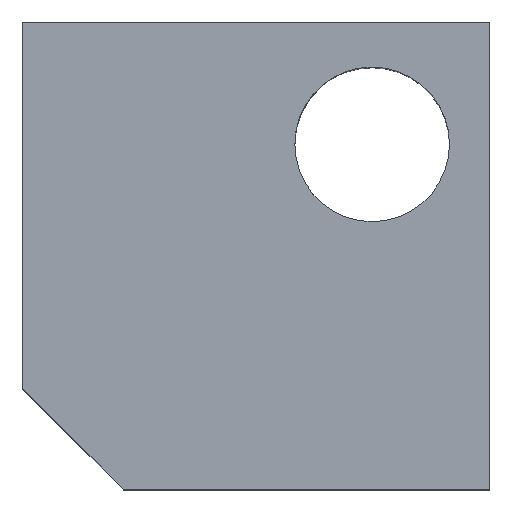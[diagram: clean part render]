
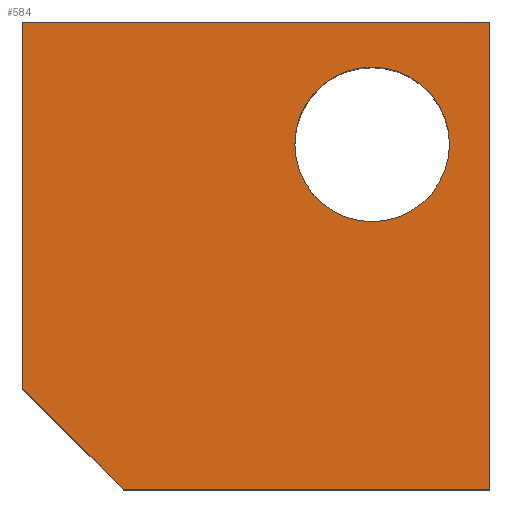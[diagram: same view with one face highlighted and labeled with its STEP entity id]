
A CAD part, top view. The second image highlights one B-rep face of the part: STEP entity #584.
In plain terms, the highlighted planar face has unit normal (0, 0, 1).
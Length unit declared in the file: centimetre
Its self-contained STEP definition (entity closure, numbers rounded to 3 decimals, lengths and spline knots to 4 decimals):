
#2 = LINE ( 'NONE', #190, #442 ) ;
#14 = VECTOR ( 'NONE', #209, 100. ) ;
#16 = CARTESIAN_POINT ( 'NONE',  ( 583.1189, 738.1582, 1000. ) ) ;
#17 = CARTESIAN_POINT ( 'NONE',  ( 1000., 1000., 1000. ) ) ;
#39 = DIRECTION ( 'NONE',  ( 0., 0., 1. ) ) ;
#54 = CIRCLE ( 'NONE', #395, 165.4871 ) ;
#58 = LINE ( 'NONE', #60, #407 ) ;
#60 = CARTESIAN_POINT ( 'NONE',  ( 0., 1000., 1000. ) ) ;
#74 = CARTESIAN_POINT ( 'NONE',  ( 748.606, 738.1582, 1000. ) ) ;
#90 = CARTESIAN_POINT ( 'NONE',  ( 107.9583, 107.9583, 1000. ) ) ;
#91 = EDGE_CURVE ( 'NONE', #424, #243, #397, .T. ) ;
#93 = EDGE_LOOP ( 'NONE', ( #122, #573, #438, #522, #376 ) ) ;
#94 = CARTESIAN_POINT ( 'NONE',  ( 215.9166, 0., 1000. ) ) ;
#96 = CARTESIAN_POINT ( 'NONE',  ( 0., 0., 1000. ) ) ;
#118 = CARTESIAN_POINT ( 'NONE',  ( 0., 215.9166, 1000. ) ) ;
#122 = ORIENTED_EDGE ( 'NONE', *, *, #420, .T. ) ;
#132 = ORIENTED_EDGE ( 'NONE', *, *, #321, .T. ) ;
#145 = VERTEX_POINT ( 'NONE', #433 ) ;
#151 = EDGE_CURVE ( 'NONE', #243, #370, #343, .T. ) ;
#169 = DIRECTION ( 'NONE',  ( 1., 0., 0. ) ) ;
#170 = DIRECTION ( 'NONE',  ( 0., 0., -1. ) ) ;
#184 = DIRECTION ( 'NONE',  ( 1., 0., 0. ) ) ;
#190 = CARTESIAN_POINT ( 'NONE',  ( 0., 1000., 1000. ) ) ;
#209 = DIRECTION ( 'NONE',  ( 0., 1., 0. ) ) ;
#243 = VERTEX_POINT ( 'NONE', #544 ) ;
#260 = DIRECTION ( 'NONE',  ( -1., 0., 0. ) ) ;
#263 = CARTESIAN_POINT ( 'NONE',  ( 0., 1000., 1000. ) ) ;
#270 = VECTOR ( 'NONE', #458, 100. ) ;
#284 = VERTEX_POINT ( 'NONE', #118 ) ;
#287 = FACE_OUTER_BOUND ( 'NONE', #93, .T. ) ;
#293 = EDGE_CURVE ( 'NONE', #503, #145, #591, .T. ) ;
#321 = EDGE_CURVE ( 'NONE', #145, #503, #54, .T. ) ;
#329 = FACE_BOUND ( 'NONE', #332, .T. ) ;
#332 = EDGE_LOOP ( 'NONE', ( #531, #132 ) ) ;
#343 = LINE ( 'NONE', #17, #14 ) ;
#344 = VERTEX_POINT ( 'NONE', #263 ) ;
#346 = DIRECTION ( 'NONE',  ( 0., 0., -1. ) ) ;
#369 = EDGE_CURVE ( 'NONE', #370, #344, #2, .T. ) ;
#370 = VERTEX_POINT ( 'NONE', #556 ) ;
#375 = DIRECTION ( 'NONE',  ( -1., 0., 0. ) ) ;
#376 = ORIENTED_EDGE ( 'NONE', *, *, #369, .T. ) ;
#383 = VECTOR ( 'NONE', #169, 100. ) ;
#395 = AXIS2_PLACEMENT_3D ( 'NONE', #74, #346, #579 ) ;
#397 = LINE ( 'NONE', #530, #383 ) ;
#407 = VECTOR ( 'NONE', #426, 100. ) ;
#409 = LINE ( 'NONE', #90, #270 ) ;
#420 = EDGE_CURVE ( 'NONE', #344, #284, #58, .T. ) ;
#424 = VERTEX_POINT ( 'NONE', #94 ) ;
#426 = DIRECTION ( 'NONE',  ( 0., -1., 0. ) ) ;
#430 = AXIS2_PLACEMENT_3D ( 'NONE', #444, #170, #260 ) ;
#433 = CARTESIAN_POINT ( 'NONE',  ( 914.0931, 738.1582, 1000. ) ) ;
#438 = ORIENTED_EDGE ( 'NONE', *, *, #91, .T. ) ;
#442 = VECTOR ( 'NONE', #375, 100. ) ;
#444 = CARTESIAN_POINT ( 'NONE',  ( 748.606, 738.1582, 1000. ) ) ;
#458 = DIRECTION ( 'NONE',  ( 0.707, -0.707, 0. ) ) ;
#467 = PLANE ( 'NONE',  #534 ) ;
#503 = VERTEX_POINT ( 'NONE', #16 ) ;
#522 = ORIENTED_EDGE ( 'NONE', *, *, #151, .T. ) ;
#530 = CARTESIAN_POINT ( 'NONE',  ( 0., 0., 1000. ) ) ;
#531 = ORIENTED_EDGE ( 'NONE', *, *, #293, .T. ) ;
#534 = AXIS2_PLACEMENT_3D ( 'NONE', #96, #39, #184 ) ;
#544 = CARTESIAN_POINT ( 'NONE',  ( 1000., 0., 1000. ) ) ;
#556 = CARTESIAN_POINT ( 'NONE',  ( 1000., 1000., 1000. ) ) ;
#573 = ORIENTED_EDGE ( 'NONE', *, *, #595, .T. ) ;
#579 = DIRECTION ( 'NONE',  ( -1., 0., 0. ) ) ;
#584 = ADVANCED_FACE ( 'NONE', ( #329, #287 ), #467, .T. ) ;
#591 = CIRCLE ( 'NONE', #430, 165.4871 ) ;
#595 = EDGE_CURVE ( 'NONE', #284, #424, #409, .T. ) ;
